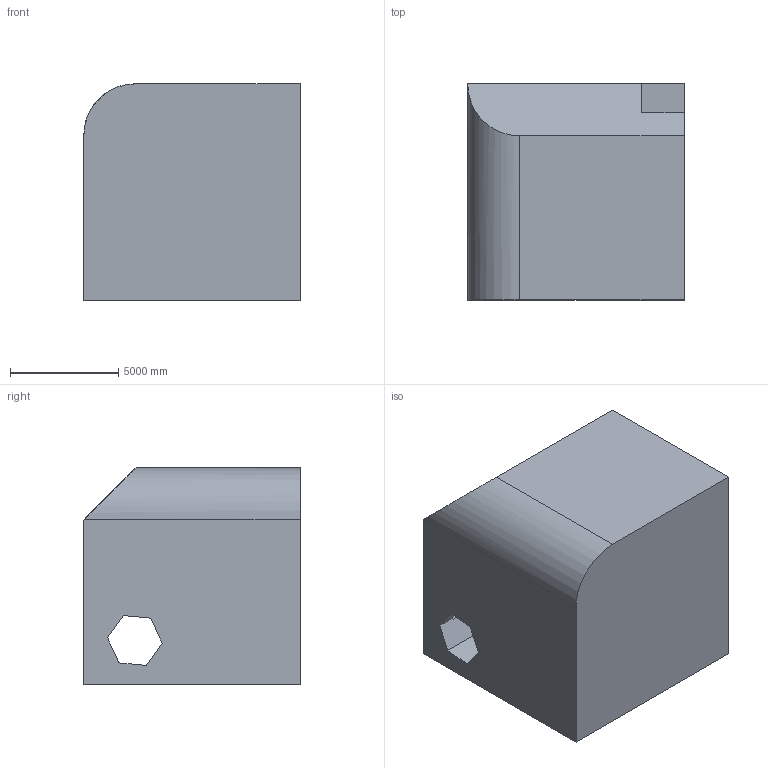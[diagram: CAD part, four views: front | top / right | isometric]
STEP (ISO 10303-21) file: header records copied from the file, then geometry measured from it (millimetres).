
FILE_DESCRIPTION (( 'STEP AP203' ), '1' );
FILE_NAME ('607.STEP', '2022-07-29T12:03:56', ( 'user' ), ( '' ), 'SwSTEP 2.0', 'SolidWorks 2021', '' );
FILE_SCHEMA (( 'CONFIG_CONTROL_DESIGN' ));
Length unit declared in the file: centimetre
Products named in the file (1): 607
Bounding box: 10000 x 10000 x 10000 mm (x, y, z)
Volume: 858365295551.7 mm3; surface area: 738577141.6 mm2
Topology: 1 solids, 1 shells, 36 faces, 96 edges, 64 vertices
Faces by surface type: plane 31, cylinder 5
Entity records: 1194 total; most frequent: CARTESIAN_POINT 200, ORIENTED_EDGE 192, DIRECTION 178, EDGE_CURVE 96, VECTOR 86, LINE 86, VERTEX_POINT 64, AXIS2_PLACEMENT_3D 46
